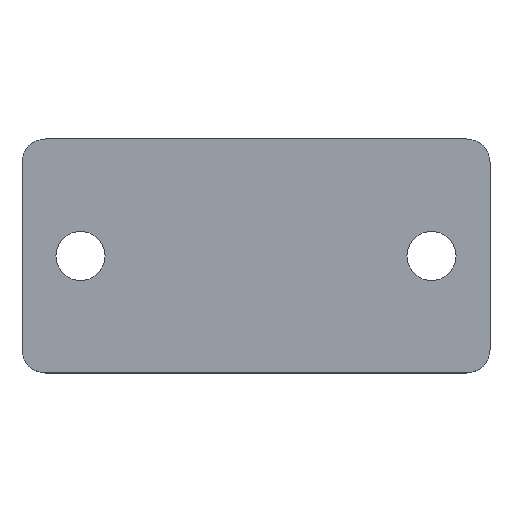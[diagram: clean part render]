
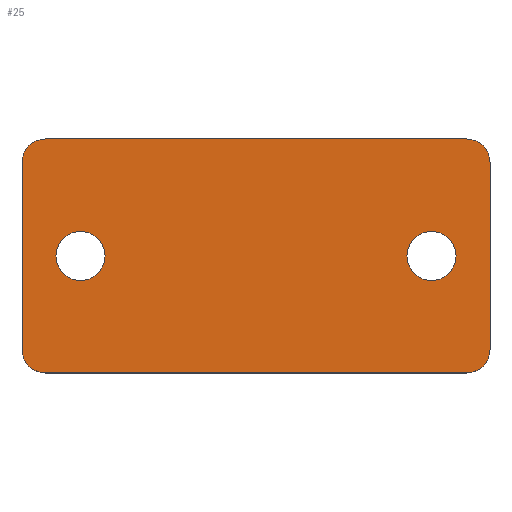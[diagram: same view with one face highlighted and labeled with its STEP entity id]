
A CAD part, top view. The second image highlights one B-rep face of the part: STEP entity #25.
In plain terms, the highlighted planar face has unit normal (0, 0, 1).
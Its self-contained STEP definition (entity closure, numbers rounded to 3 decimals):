
#1 = DIRECTION ( 'NONE',  ( 0., 0., -1. ) ) ;
#5 = PLANE ( 'NONE',  #153 ) ;
#7 = DIRECTION ( 'NONE',  ( -1., 0., 0. ) ) ;
#14 = CARTESIAN_POINT ( 'NONE',  ( 0., 0., 2. ) ) ;
#25 = ADVANCED_FACE ( 'NONE', ( #295, #428, #432 ), #5, .F. ) ;
#66 = CARTESIAN_POINT ( 'NONE',  ( 17.1, 0., 2. ) ) ;
#68 = CARTESIAN_POINT ( 'NONE',  ( -18., -10., 2. ) ) ;
#69 = CARTESIAN_POINT ( 'NONE',  ( 18., -10., 2. ) ) ;
#70 = CARTESIAN_POINT ( 'NONE',  ( 18., 10., 2. ) ) ;
#72 = CARTESIAN_POINT ( 'NONE',  ( -20., -8., 2. ) ) ;
#74 = CARTESIAN_POINT ( 'NONE',  ( -12.9, 0., 2. ) ) ;
#75 = CARTESIAN_POINT ( 'NONE',  ( -17.1, 0., 2. ) ) ;
#76 = CARTESIAN_POINT ( 'NONE',  ( -18., 10., 2. ) ) ;
#84 = CARTESIAN_POINT ( 'NONE',  ( -20., 8., 2. ) ) ;
#86 = CARTESIAN_POINT ( 'NONE',  ( 20., -8., 2. ) ) ;
#95 = CARTESIAN_POINT ( 'NONE',  ( 20., 8., 2. ) ) ;
#97 = CARTESIAN_POINT ( 'NONE',  ( 12.9, 0., 2. ) ) ;
#99 = CARTESIAN_POINT ( 'NONE',  ( -15., 0., 2. ) ) ;
#100 = DIRECTION ( 'NONE',  ( 0., 0., 1. ) ) ;
#101 = DIRECTION ( 'NONE',  ( 1., 0., 0. ) ) ;
#130 = AXIS2_PLACEMENT_3D ( 'NONE', #204, #205, #206 ) ;
#133 = AXIS2_PLACEMENT_3D ( 'NONE', #199, #200, #201 ) ;
#135 = AXIS2_PLACEMENT_3D ( 'NONE', #288, #289, #290 ) ;
#137 = AXIS2_PLACEMENT_3D ( 'NONE', #282, #283, #284 ) ;
#138 = AXIS2_PLACEMENT_3D ( 'NONE', #99, #100, #101 ) ;
#139 = AXIS2_PLACEMENT_3D ( 'NONE', #256, #257, #247 ) ;
#146 = AXIS2_PLACEMENT_3D ( 'NONE', #276, #250, #251 ) ;
#148 = AXIS2_PLACEMENT_3D ( 'NONE', #233, #234, #277 ) ;
#153 = AXIS2_PLACEMENT_3D ( 'NONE', #14, #1, #7 ) ;
#158 = EDGE_CURVE ( 'NONE', #442, #449, #396, .T. ) ;
#160 = EDGE_CURVE ( 'NONE', #449, #442, #393, .T. ) ;
#161 = EDGE_CURVE ( 'NONE', #453, #459, #388, .T. ) ;
#162 = EDGE_CURVE ( 'NONE', #459, #437, #390, .T. ) ;
#163 = EDGE_CURVE ( 'NONE', #437, #455, #384, .T. ) ;
#164 = EDGE_CURVE ( 'NONE', #455, #451, #383, .T. ) ;
#167 = EDGE_CURVE ( 'NONE', #451, #452, #387, .T. ) ;
#169 = EDGE_CURVE ( 'NONE', #452, #439, #378, .T. ) ;
#170 = EDGE_CURVE ( 'NONE', #439, #438, #376, .T. ) ;
#171 = EDGE_CURVE ( 'NONE', #438, #453, #375, .T. ) ;
#172 = EDGE_CURVE ( 'NONE', #457, #458, #372, .T. ) ;
#187 = EDGE_CURVE ( 'NONE', #458, #457, #342, .T. ) ;
#199 = CARTESIAN_POINT ( 'NONE',  ( 18., 8., 2. ) ) ;
#200 = DIRECTION ( 'NONE',  ( 0., 0., 1. ) ) ;
#201 = DIRECTION ( 'NONE',  ( -1., 0., 0. ) ) ;
#204 = CARTESIAN_POINT ( 'NONE',  ( -15., 0., 2. ) ) ;
#205 = DIRECTION ( 'NONE',  ( 0., 0., 1. ) ) ;
#206 = DIRECTION ( 'NONE',  ( 1., 0., 0. ) ) ;
#233 = CARTESIAN_POINT ( 'NONE',  ( 15., 0., 2. ) ) ;
#234 = DIRECTION ( 'NONE',  ( 0., 0., 1. ) ) ;
#247 = DIRECTION ( 'NONE',  ( -1., 0., 0. ) ) ;
#250 = DIRECTION ( 'NONE',  ( 0., 0., 1. ) ) ;
#251 = DIRECTION ( 'NONE',  ( 1., 0., 0. ) ) ;
#253 = CARTESIAN_POINT ( 'NONE',  ( -20., -10., 2. ) ) ;
#254 = DIRECTION ( 'NONE',  ( -1., 0., 0. ) ) ;
#256 = CARTESIAN_POINT ( 'NONE',  ( -18., 8., 2. ) ) ;
#257 = DIRECTION ( 'NONE',  ( 0., 0., 1. ) ) ;
#276 = CARTESIAN_POINT ( 'NONE',  ( 15., 0., 2. ) ) ;
#277 = DIRECTION ( 'NONE',  ( 1., 0., 0. ) ) ;
#278 = CARTESIAN_POINT ( 'NONE',  ( -20., 10., 2. ) ) ;
#279 = DIRECTION ( 'NONE',  ( 0., -1., 0. ) ) ;
#280 = DIRECTION ( 'NONE',  ( 0., 1., 0. ) ) ;
#281 = CARTESIAN_POINT ( 'NONE',  ( -20., -10., 2. ) ) ;
#282 = CARTESIAN_POINT ( 'NONE',  ( -18., -8., 2. ) ) ;
#283 = DIRECTION ( 'NONE',  ( 0., 0., 1. ) ) ;
#284 = DIRECTION ( 'NONE',  ( -1., 0., 0. ) ) ;
#285 = CARTESIAN_POINT ( 'NONE',  ( 20., -10., 2. ) ) ;
#286 = DIRECTION ( 'NONE',  ( 1., 0., 0. ) ) ;
#288 = CARTESIAN_POINT ( 'NONE',  ( 18., -8., 2. ) ) ;
#289 = DIRECTION ( 'NONE',  ( 0., 0., 1. ) ) ;
#290 = DIRECTION ( 'NONE',  ( -1., 0., 0. ) ) ;
#291 = ORIENTED_EDGE ( 'NONE', *, *, #171, .T. ) ;
#292 = ORIENTED_EDGE ( 'NONE', *, *, #162, .T. ) ;
#293 = ORIENTED_EDGE ( 'NONE', *, *, #164, .T. ) ;
#295 = FACE_BOUND ( 'NONE', #460, .T. ) ;
#342 = CIRCLE ( 'NONE', #138, 2.1 ) ;
#346 = ORIENTED_EDGE ( 'NONE', *, *, #160, .F. ) ;
#372 = CIRCLE ( 'NONE', #130, 2.1 ) ;
#373 = VECTOR ( 'NONE', #280, 1000. ) ;
#375 = CIRCLE ( 'NONE', #133, 2. ) ;
#376 = LINE ( 'NONE', #285, #373 ) ;
#377 = VECTOR ( 'NONE', #286, 1000. ) ;
#378 = CIRCLE ( 'NONE', #135, 2. ) ;
#382 = VECTOR ( 'NONE', #279, 1000. ) ;
#383 = CIRCLE ( 'NONE', #137, 2. ) ;
#384 = LINE ( 'NONE', #253, #382 ) ;
#386 = VECTOR ( 'NONE', #254, 1000. ) ;
#387 = LINE ( 'NONE', #281, #377 ) ;
#388 = LINE ( 'NONE', #278, #386 ) ;
#390 = CIRCLE ( 'NONE', #139, 2. ) ;
#393 = CIRCLE ( 'NONE', #146, 2.1 ) ;
#396 = CIRCLE ( 'NONE', #148, 2.1 ) ;
#403 = ORIENTED_EDGE ( 'NONE', *, *, #170, .T. ) ;
#418 = ORIENTED_EDGE ( 'NONE', *, *, #163, .T. ) ;
#421 = ORIENTED_EDGE ( 'NONE', *, *, #172, .F. ) ;
#428 = FACE_OUTER_BOUND ( 'NONE', #461, .T. ) ;
#432 = FACE_BOUND ( 'NONE', #463, .T. ) ;
#437 = VERTEX_POINT ( 'NONE', #84 ) ;
#438 = VERTEX_POINT ( 'NONE', #95 ) ;
#439 = VERTEX_POINT ( 'NONE', #86 ) ;
#442 = VERTEX_POINT ( 'NONE', #97 ) ;
#449 = VERTEX_POINT ( 'NONE', #66 ) ;
#451 = VERTEX_POINT ( 'NONE', #68 ) ;
#452 = VERTEX_POINT ( 'NONE', #69 ) ;
#453 = VERTEX_POINT ( 'NONE', #70 ) ;
#455 = VERTEX_POINT ( 'NONE', #72 ) ;
#457 = VERTEX_POINT ( 'NONE', #74 ) ;
#458 = VERTEX_POINT ( 'NONE', #75 ) ;
#459 = VERTEX_POINT ( 'NONE', #76 ) ;
#460 = EDGE_LOOP ( 'NONE', ( #346, #512 ) ) ;
#461 = EDGE_LOOP ( 'NONE', ( #504, #292, #418, #293, #480, #497, #403, #291 ) ) ;
#463 = EDGE_LOOP ( 'NONE', ( #421, #517 ) ) ;
#480 = ORIENTED_EDGE ( 'NONE', *, *, #167, .T. ) ;
#497 = ORIENTED_EDGE ( 'NONE', *, *, #169, .T. ) ;
#504 = ORIENTED_EDGE ( 'NONE', *, *, #161, .T. ) ;
#512 = ORIENTED_EDGE ( 'NONE', *, *, #158, .F. ) ;
#517 = ORIENTED_EDGE ( 'NONE', *, *, #187, .F. ) ;
